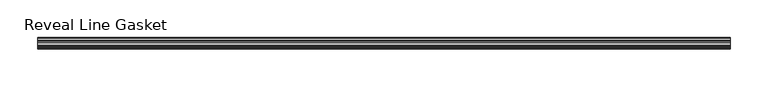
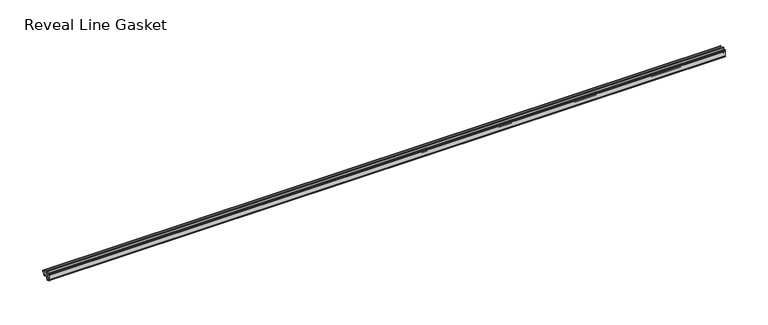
"""IFC4 building model written with IfcOpenShell, lengths in millimetres: proxy geometry, Accessories-Teknion-FHGR-AI_Healthcare-Reveal_Line_Gasket(Horizontal)-R2022 : Reveal Line Gasket."""

from ifc_helpers import new_model, si_unit, point, frame, frame_2d, origin, place, context, project, spatial, polyline, circle_curve, trimmed, segment, composite_curve, outline, extrude, source, transform, mapped, element, save


def reveal_line_gasket_294d9cc8(model_context):
    return source(origin(), model_context, "Body", "SweptSolid", [
        extrude(outline(composite_curve([segment(polyline([(-7.6326998, 1603.2), (-7.4091917, 1604.1554927), (-6.8813059, 1605.0884684)]), True, "CONTINUOUS"), segment(trimmed(circle_curve(frame_2d((-6.5243141, 1604.8864793)), 0.4101739), [point((-6.8813059, 1605.0884684))], [point((-6.1246704, 1604.7941347))], False, "CARTESIAN"), True, "CONTINUOUS"), segment(polyline([(-6.1246704, 1604.7941347), (-6.3626997, 1603.0979086), (-6.3626997, 1601.0654527)]), True, "CONTINUOUS"), segment(trimmed(circle_curve(frame_2d((-5.6959605, 1601.4819258)), 0.786124), [point((-6.3626997, 1601.0654527))], [point((-5.0926996, 1600.977875))], True, "CARTESIAN"), True, "CONTINUOUS"), segment(polyline([(-5.0926996, 1600.977875), (-0.7492996, 1600.977875), (-3.7293824, 1606.1395295)]), True, "CONTINUOUS"), segment(trimmed(circle_curve(frame_2d((-3.3132479, 1606.2049761)), 0.4212495), [point((-3.7293824, 1606.1395295))], [point((-3.0485022, 1606.5326358))], False, "CARTESIAN"), True, "CONTINUOUS"), segment(polyline([(-3.0485022, 1606.5326358), (0.5742594, 1600.977875), (4.8262978, 1600.977875), (3.1660374, 1603.8535297)]), True, "CONTINUOUS"), segment(trimmed(circle_curve(frame_2d((3.5978728, 1603.9118855)), 0.4357605), [point((3.1660374, 1603.8535297))], [point((3.864328, 1604.2566881))], False, "CARTESIAN"), True, "CONTINUOUS"), segment(polyline([(3.864328, 1604.2566881), (6.1944059, 1600.977875), (7.6326998, 1600.977875), (7.6326998, 1599.422125), (6.1944059, 1599.422125), (3.864328, 1596.1433119)]), True, "CONTINUOUS"), segment(trimmed(circle_curve(frame_2d((3.5978728, 1596.4881145)), 0.4357605), [point((3.864328, 1596.1433119))], [point((3.1660374, 1596.5464703))], False, "CARTESIAN"), True, "CONTINUOUS"), segment(polyline([(3.1660374, 1596.5464703), (4.8262978, 1599.422125), (0.5742594, 1599.422125), (-3.0485022, 1593.8673642)]), True, "CONTINUOUS"), segment(trimmed(circle_curve(frame_2d((-3.3132479, 1594.1950239)), 0.4212495), [point((-3.0485022, 1593.8673642))], [point((-3.7293824, 1594.2604705))], False, "CARTESIAN"), True, "CONTINUOUS"), segment(polyline([(-3.7293824, 1594.2604705), (-0.7492996, 1599.422125), (-5.0926996, 1599.422125)]), True, "CONTINUOUS"), segment(trimmed(circle_curve(frame_2d((-5.6959605, 1598.9180742)), 0.786124), [point((-5.0926996, 1599.422125))], [point((-6.3626997, 1599.3345473))], True, "CARTESIAN"), True, "CONTINUOUS"), segment(polyline([(-6.3626997, 1599.3345473), (-6.3626997, 1597.3020914), (-6.1246704, 1595.6058653)]), True, "CONTINUOUS"), segment(trimmed(circle_curve(frame_2d((-6.5243141, 1595.5135207)), 0.4101739), [point((-6.1246704, 1595.6058653))], [point((-6.8813059, 1595.3115316))], False, "CARTESIAN"), True, "CONTINUOUS"), segment(polyline([(-6.8813059, 1595.3115316), (-7.4091917, 1596.2445073), (-7.6326998, 1597.2), (-7.6326998, 1603.2)]), True, "CONTINUOUS")], self_intersect=False)), frame((-458.4954, 0.0, 0.0), z_axis=(1.0, 0.0, 0.0), x_axis=(0.0, 1.0, 0.0)), (0.0, 0.0, 1.0), 916.9908),
    ])


if __name__ == "__main__":
    model = new_model("IFC4")
    model_context = context("Model", 3, world=origin())
    ifc_project = project(units=[si_unit("LENGTHUNIT", "METRE", prefix="MILLI")], contexts=[model_context])
    site = spatial("IfcSite", under=ifc_project)
    building = spatial("IfcBuilding", under=site)
    placement = place(None, origin())
    reveal_line_gasket_shape = reveal_line_gasket_294d9cc8(model_context)
    element("IfcBuildingElementProxy", 1, Name="Accessories-Teknion-FHGR-AI_Healthcare-Reveal_Line_Gasket(Horizontal)-R2022 : Reveal Line Gasket", ObjectType="Accessories-Teknion-FHGR-AI_Healthcare-Reveal_Line_Gasket(Horizontal)-R2022 : Reveal Line Gasket", at=placement, inside=building, context=model_context, shape_type="MappedRepresentation", body=[
        mapped(reveal_line_gasket_shape, transform((0.0, 0.0, 0.0), x_axis=(1.0, 0.0, 0.0), y_axis=(0.0, 1.0, 0.0), z_axis=(0.0, 0.0, 1.0))),
    ])
    save(model, "model.ifc")
